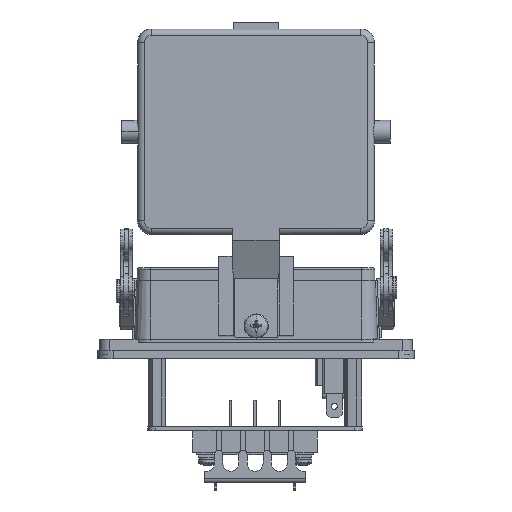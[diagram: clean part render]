
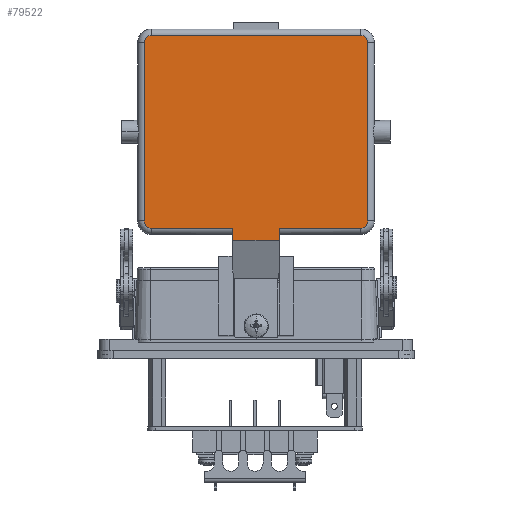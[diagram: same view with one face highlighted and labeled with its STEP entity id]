
A CAD part, front view. The second image highlights one B-rep face of the part: STEP entity #79522.
In plain terms, the highlighted planar face has unit normal (0, -1, -0.002).
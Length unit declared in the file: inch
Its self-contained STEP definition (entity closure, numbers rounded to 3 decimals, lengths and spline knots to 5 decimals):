
#24597 = VERTEX_POINT ( 'NONE', #25128 ) ;
#24603 = EDGE_CURVE ( 'NONE', #24597, #79353, #25126, .T. ) ;
#24610 = EDGE_CURVE ( 'NONE', #24597, #80245, #25150, .T. ) ;
#25123 = DIRECTION ( 'NONE',  ( 1., 0., 0. ) ) ;
#25124 = VECTOR ( 'NONE', #25123, 39.37008 ) ;
#25125 = CARTESIAN_POINT ( 'NONE',  ( 1.05192, -1.73229, 0.63572 ) ) ;
#25126 = LINE ( 'NONE', #25125, #25124 ) ;
#25128 = CARTESIAN_POINT ( 'NONE',  ( 0.68854, -1.73229, 0.63572 ) ) ;
#25147 = DIRECTION ( 'NONE',  ( 0., -0.002, 1. ) ) ;
#25148 = VECTOR ( 'NONE', #25147, 39.37008 ) ;
#25149 = CARTESIAN_POINT ( 'NONE',  ( 0.68854, -1.72568, -2.20602 ) ) ;
#25150 = LINE ( 'NONE', #25149, #25148 ) ;
#31774 = DIRECTION ( 'NONE',  ( -1., 0., 0. ) ) ;
#31775 = VECTOR ( 'NONE', #31774, 39.37008 ) ;
#31776 = CARTESIAN_POINT ( 'NONE',  ( 1.05192, -1.73974, 3.83864 ) ) ;
#31777 = LINE ( 'NONE', #31776, #31775 ) ;
#31779 = CARTESIAN_POINT ( 'NONE',  ( -0.58408, -1.73974, 3.83864 ) ) ;
#31820 = DIRECTION ( 'NONE',  ( -1., 0., 0. ) ) ;
#31821 = DIRECTION ( 'NONE',  ( 0., -1., -0.002 ) ) ;
#31822 = CARTESIAN_POINT ( 'NONE',  ( 2.68792, -1.73947, 3.72402 ) ) ;
#31823 = AXIS2_PLACEMENT_3D ( 'NONE', #31822, #31821, #31820 ) ;
#31824 = CIRCLE ( 'NONE', #31823, 0.11462 ) ;
#31826 = CARTESIAN_POINT ( 'NONE',  ( 2.68792, -1.73974, 3.83864 ) ) ;
#31971 = DIRECTION ( 'NONE',  ( -1., 0., 0. ) ) ;
#31972 = DIRECTION ( 'NONE',  ( 0., -1., -0.002 ) ) ;
#31973 = CARTESIAN_POINT ( 'NONE',  ( -0.58408, -1.73947, 3.72402 ) ) ;
#31974 = AXIS2_PLACEMENT_3D ( 'NONE', #31973, #31972, #31971 ) ;
#31975 = CIRCLE ( 'NONE', #31974, 0.11462 ) ;
#31976 = CARTESIAN_POINT ( 'NONE',  ( -0.69869, -1.73947, 3.72402 ) ) ;
#31996 = CARTESIAN_POINT ( 'NONE',  ( 2.80254, -1.73947, 3.72402 ) ) ;
#32034 = DIRECTION ( 'NONE',  ( 0., 0.002, -1. ) ) ;
#32035 = VECTOR ( 'NONE', #32034, 39.37008 ) ;
#32036 = CARTESIAN_POINT ( 'NONE',  ( -0.69869, -1.72568, -2.20602 ) ) ;
#32037 = LINE ( 'NONE', #32036, #32035 ) ;
#32078 = CARTESIAN_POINT ( 'NONE',  ( -0.69869, -1.733, 0.94003 ) ) ;
#32272 = DIRECTION ( 'NONE',  ( -1., 0., 0. ) ) ;
#32273 = DIRECTION ( 'NONE',  ( 0., -1., -0.002 ) ) ;
#32274 = CARTESIAN_POINT ( 'NONE',  ( -0.58408, -1.733, 0.94003 ) ) ;
#32275 = AXIS2_PLACEMENT_3D ( 'NONE', #32274, #32273, #32272 ) ;
#32276 = CIRCLE ( 'NONE', #32275, 0.11462 ) ;
#39680 = CARTESIAN_POINT ( 'NONE',  ( 1.4153, -1.73273, 0.82541 ) ) ;
#39967 = DIRECTION ( 'NONE',  ( 1., 0., 0. ) ) ;
#39969 = VECTOR ( 'NONE', #39967, 39.37008 ) ;
#39971 = CARTESIAN_POINT ( 'NONE',  ( 2.68792, -1.73273, 0.82541 ) ) ;
#39973 = LINE ( 'NONE', #39971, #39969 ) ;
#39983 = CARTESIAN_POINT ( 'NONE',  ( 2.68792, -1.73273, 0.82541 ) ) ;
#41583 = DIRECTION ( 'NONE',  ( 0., 0.002, -1. ) ) ;
#41584 = VECTOR ( 'NONE', #41583, 39.37008 ) ;
#41585 = CARTESIAN_POINT ( 'NONE',  ( 1.4153, -1.72568, -2.20602 ) ) ;
#41586 = LINE ( 'NONE', #41585, #41584 ) ;
#41598 = CARTESIAN_POINT ( 'NONE',  ( 1.4153, -1.73229, 0.63572 ) ) ;
#42594 = FACE_OUTER_BOUND ( 'NONE', #79524, .T. ) ;
#42656 = DIRECTION ( 'NONE',  ( -1., 0., 0. ) ) ;
#42659 = DIRECTION ( 'NONE',  ( 0., 1., 0.002 ) ) ;
#42661 = CARTESIAN_POINT ( 'NONE',  ( 1.05192, -1.72568, -2.20602 ) ) ;
#42662 = AXIS2_PLACEMENT_3D ( 'NONE', #42661, #42659, #42656 ) ;
#42668 = PLANE ( 'NONE',  #42662 ) ;
#42821 = DIRECTION ( 'NONE',  ( 0., -0.002, 1. ) ) ;
#42823 = VECTOR ( 'NONE', #42821, 39.37008 ) ;
#42825 = CARTESIAN_POINT ( 'NONE',  ( 2.80254, -1.73947, 3.72402 ) ) ;
#42827 = LINE ( 'NONE', #42825, #42823 ) ;
#42845 = CARTESIAN_POINT ( 'NONE',  ( 2.80254, -1.733, 0.94003 ) ) ;
#42847 = DIRECTION ( 'NONE',  ( -1., 0., 0. ) ) ;
#42848 = DIRECTION ( 'NONE',  ( 0., -1., -0.002 ) ) ;
#42850 = CARTESIAN_POINT ( 'NONE',  ( 2.68792, -1.733, 0.94003 ) ) ;
#42851 = AXIS2_PLACEMENT_3D ( 'NONE', #42850, #42848, #42847 ) ;
#42852 = CIRCLE ( 'NONE', #42851, 0.11462 ) ;
#46966 = CARTESIAN_POINT ( 'NONE',  ( -0.58408, -1.73273, 0.82541 ) ) ;
#46980 = DIRECTION ( 'NONE',  ( 1., 0., 0. ) ) ;
#46981 = VECTOR ( 'NONE', #46980, 39.37008 ) ;
#46982 = CARTESIAN_POINT ( 'NONE',  ( 0.68854, -1.73273, 0.82541 ) ) ;
#46983 = LINE ( 'NONE', #46982, #46981 ) ;
#46985 = CARTESIAN_POINT ( 'NONE',  ( 0.68854, -1.73273, 0.82541 ) ) ;
#76509 = VERTEX_POINT ( 'NONE', #31779 ) ;
#76511 = EDGE_CURVE ( 'NONE', #76526, #76509, #31777, .T. ) ;
#76526 = VERTEX_POINT ( 'NONE', #31826 ) ;
#76528 = EDGE_CURVE ( 'NONE', #76582, #76526, #31824, .T. ) ;
#76572 = VERTEX_POINT ( 'NONE', #31976 ) ;
#76574 = EDGE_CURVE ( 'NONE', #76509, #76572, #31975, .T. ) ;
#76582 = VERTEX_POINT ( 'NONE', #31996 ) ;
#76590 = EDGE_CURVE ( 'NONE', #76572, #76610, #32037, .T. ) ;
#76610 = VERTEX_POINT ( 'NONE', #32078 ) ;
#76656 = EDGE_CURVE ( 'NONE', #76610, #80211, #32276, .T. ) ;
#79089 = VERTEX_POINT ( 'NONE', #39680 ) ;
#79126 = VERTEX_POINT ( 'NONE', #39983 ) ;
#79131 = EDGE_CURVE ( 'NONE', #79089, #79126, #39973, .T. ) ;
#79353 = VERTEX_POINT ( 'NONE', #41598 ) ;
#79366 = EDGE_CURVE ( 'NONE', #79089, #79353, #41586, .T. ) ;
#79522 = ADVANCED_FACE ( 'NONE', ( #42594 ), #42668, .F. ) ;
#79524 = EDGE_LOOP ( 'NONE', ( #79526, #79528, #79531, #79565, #79567, #79574, #79579, #79581, #79583, #79585, #79587, #79620 ) ) ;
#79526 = ORIENTED_EDGE ( 'NONE', *, *, #24610, .F. ) ;
#79528 = ORIENTED_EDGE ( 'NONE', *, *, #24603, .T. ) ;
#79531 = ORIENTED_EDGE ( 'NONE', *, *, #79366, .F. ) ;
#79565 = ORIENTED_EDGE ( 'NONE', *, *, #79131, .T. ) ;
#79567 = ORIENTED_EDGE ( 'NONE', *, *, #79569, .T. ) ;
#79569 = EDGE_CURVE ( 'NONE', #79126, #79571, #42852, .T. ) ;
#79571 = VERTEX_POINT ( 'NONE', #42845 ) ;
#79574 = ORIENTED_EDGE ( 'NONE', *, *, #79575, .T. ) ;
#79575 = EDGE_CURVE ( 'NONE', #79571, #76582, #42827, .T. ) ;
#79579 = ORIENTED_EDGE ( 'NONE', *, *, #76528, .T. ) ;
#79581 = ORIENTED_EDGE ( 'NONE', *, *, #76511, .T. ) ;
#79583 = ORIENTED_EDGE ( 'NONE', *, *, #76574, .T. ) ;
#79585 = ORIENTED_EDGE ( 'NONE', *, *, #76590, .T. ) ;
#79587 = ORIENTED_EDGE ( 'NONE', *, *, #76656, .T. ) ;
#79620 = ORIENTED_EDGE ( 'NONE', *, *, #80249, .T. ) ;
#80211 = VERTEX_POINT ( 'NONE', #46966 ) ;
#80245 = VERTEX_POINT ( 'NONE', #46985 ) ;
#80249 = EDGE_CURVE ( 'NONE', #80211, #80245, #46983, .T. ) ;
